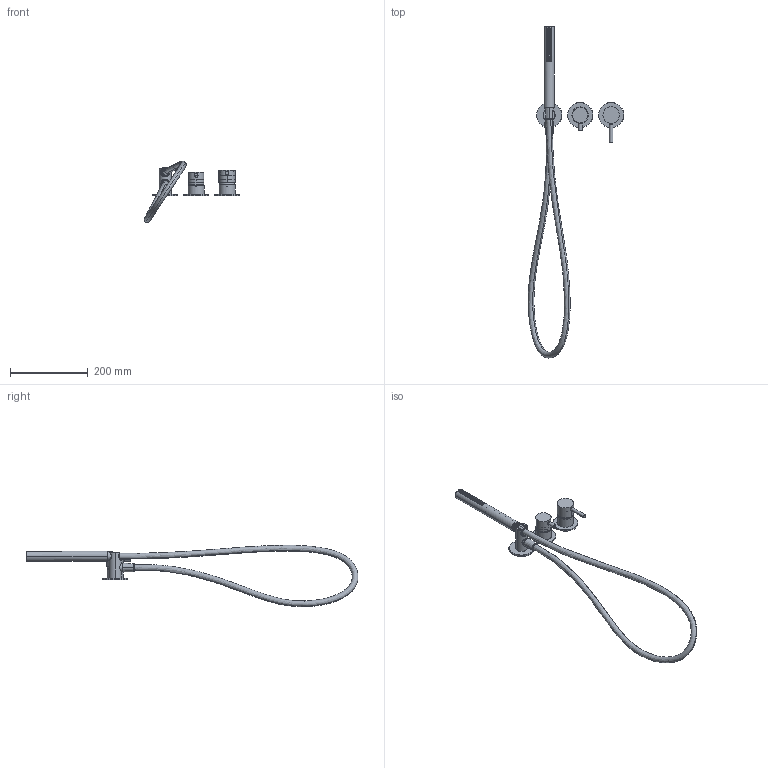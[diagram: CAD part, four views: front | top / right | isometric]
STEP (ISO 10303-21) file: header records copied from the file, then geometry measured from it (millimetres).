
FILE_DESCRIPTION((''),'2;1');
FILE_NAME('DIS_3D_M784B_D284A','2026-08-06T10:49:55',('matteo.follador'),(''),'CREO PARAMETRIC BY PTC INC, 2025514','CREO PARAMETRIC BY PTC INC, 2025514','');
FILE_SCHEMA(('AUTOMOTIVE_DESIGN { 1 0 10303 214 1 1 1 1 }'));
Length unit declared in the file: millimetre
Products named in the file (1): DIS_3D_M784B_D284A
Bounding box: 246.56 x 856.53 x 158.54 mm (x, y, z)
Volume: 536319.4 mm3; surface area: 192996.6 mm2
Topology: 3 solids, 7 shells, 2044 faces, 5715 edges, 3735 vertices
Faces by surface type: plane 792, cylinder 601, bspline 268, cone 249, torus 125, sphere 7, extrusion 2
Entity records: 122980 total; most frequent: CARTESIAN_POINT 72146, ORIENTED_EDGE 11394, DIRECTION 8241, EDGE_CURVE 5697, VERTEX_POINT 3726, AXIS2_PLACEMENT_3D 2844, VECTOR 2550, LINE 2548
